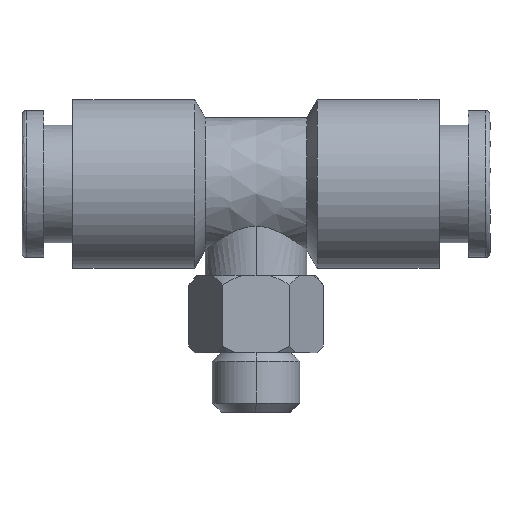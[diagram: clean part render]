
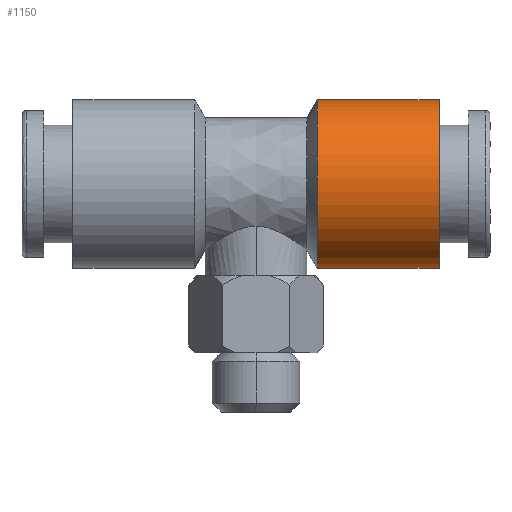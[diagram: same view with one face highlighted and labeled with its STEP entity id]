
A CAD part, top view. The second image highlights one B-rep face of the part: STEP entity #1150.
In plain terms, the highlighted free-form (B-spline) face has degree [1, 3] with [2, 4] control points.
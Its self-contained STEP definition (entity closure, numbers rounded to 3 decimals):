
#20 = EDGE_CURVE ( 'NONE', #200, #1172, #1308, .T. ) ;
#55 = CARTESIAN_POINT ( 'NONE',  ( 4.222, 17.4, 0. ) ) ;
#114 = ORIENTED_EDGE ( 'NONE', *, *, #20, .F. ) ;
#173 = CARTESIAN_POINT ( 'NONE',  ( 12.6, 5.8, 11.6 ) ) ;
#200 = VERTEX_POINT ( 'NONE', #2088 ) ;
#261 = CARTESIAN_POINT ( 'NONE',  ( 4.222, 17.4, 11.6 ) ) ;
#308 = VERTEX_POINT ( 'NONE', #514 ) ;
#356 = CARTESIAN_POINT ( 'NONE',  ( 4.222, 5.8, 11.6 ) ) ;
#393 = CARTESIAN_POINT ( 'NONE',  ( 12.6, 5.8, 0. ) ) ;
#492 = CARTESIAN_POINT ( 'NONE',  ( 4.222, 5.8, 11.6 ) ) ;
#514 = CARTESIAN_POINT ( 'NONE',  ( 12.6, 17.4, 0. ) ) ;
#547 = FACE_OUTER_BOUND ( 'NONE', #2001, .T. ) ;
#726 = EDGE_CURVE ( 'NONE', #1172, #1933, #1247, .T. ) ;
#796 = CARTESIAN_POINT ( 'NONE',  ( 4.222, 17.4, 0. ) ) ;
#817 = CARTESIAN_POINT ( 'NONE',  ( 4.222, 17.4, 0. ) ) ;
#851 = CARTESIAN_POINT ( 'NONE',  ( 4.222, 5.8, 0. ) ) ;
#858 = ORIENTED_EDGE ( 'NONE', *, *, #1462, .T. ) ;
#1052 = CARTESIAN_POINT ( 'NONE',  ( 12.6, 5.8, 0. ) ) ;
#1055 = CARTESIAN_POINT ( 'NONE',  ( 12.6, 17.4, 11.6 ) ) ;
#1149 = CARTESIAN_POINT ( 'NONE',  ( 12.6, 17.4, 0. ) ) ;
#1150 = ADVANCED_FACE ( 'NONE', ( #547 ), #2136, .T. ) ;
#1172 = VERTEX_POINT ( 'NONE', #2063 ) ;
#1247 =( BOUNDED_CURVE ( )  B_SPLINE_CURVE ( 3, ( #1489, #492, #261, #55 ),
 .UNSPECIFIED., .F., .F. ) 
 B_SPLINE_CURVE_WITH_KNOTS ( ( 4, 4 ),
 ( 0.5, 1. ),
 .UNSPECIFIED. ) 
 CURVE ( )  GEOMETRIC_REPRESENTATION_ITEM ( )  RATIONAL_B_SPLINE_CURVE ( ( 1., 0.333, 0.333, 1. ) ) 
 REPRESENTATION_ITEM ( '' )  );
#1308 = B_SPLINE_CURVE_WITH_KNOTS ( 'NONE', 1,
 ( #1052, #851 ),
 .UNSPECIFIED., .F., .F.,
 ( 2, 2 ),
 ( 0., 1. ),
 .UNSPECIFIED. ) ;
#1357 = CARTESIAN_POINT ( 'NONE',  ( 4.222, 17.4, 0. ) ) ;
#1462 = EDGE_CURVE ( 'NONE', #308, #1933, #1763, .T. ) ;
#1489 = CARTESIAN_POINT ( 'NONE',  ( 4.222, 5.8, 0. ) ) ;
#1763 = B_SPLINE_CURVE_WITH_KNOTS ( 'NONE', 1,
 ( #2000, #817 ),
 .UNSPECIFIED., .F., .F.,
 ( 2, 2 ),
 ( 0., 1. ),
 .UNSPECIFIED. ) ;
#1833 = CARTESIAN_POINT ( 'NONE',  ( 12.6, 17.4, 0. ) ) ;
#1843 =( BOUNDED_CURVE ( )  B_SPLINE_CURVE ( 3, ( #393, #173, #1055, #1833 ),
 .UNSPECIFIED., .F., .F. ) 
 B_SPLINE_CURVE_WITH_KNOTS ( ( 4, 4 ),
 ( 0.5, 1. ),
 .UNSPECIFIED. ) 
 CURVE ( )  GEOMETRIC_REPRESENTATION_ITEM ( )  RATIONAL_B_SPLINE_CURVE ( ( 1., 0.333, 0.333, 1. ) ) 
 REPRESENTATION_ITEM ( '' )  );
#1933 = VERTEX_POINT ( 'NONE', #796 ) ;
#1959 = CARTESIAN_POINT ( 'NONE',  ( 12.6, 17.4, 11.6 ) ) ;
#1971 = CARTESIAN_POINT ( 'NONE',  ( 4.222, 5.8, 0. ) ) ;
#2000 = CARTESIAN_POINT ( 'NONE',  ( 12.6, 17.4, 0. ) ) ;
#2001 = EDGE_LOOP ( 'NONE', ( #114, #2313, #858, #2114 ) ) ;
#2063 = CARTESIAN_POINT ( 'NONE',  ( 4.222, 5.8, 0. ) ) ;
#2088 = CARTESIAN_POINT ( 'NONE',  ( 12.6, 5.8, 0. ) ) ;
#2114 = ORIENTED_EDGE ( 'NONE', *, *, #726, .F. ) ;
#2136 =( BOUNDED_SURFACE ( )  B_SPLINE_SURFACE ( 1, 3, ( 
 ( #1149, #1959, #2555, #2360 ),
 ( #1357, #2164, #356, #1971 ) ),
 .UNSPECIFIED., .F., .F., .F. ) 
 B_SPLINE_SURFACE_WITH_KNOTS ( ( 2, 2 ),
 ( 4, 4 ),
 ( 0., 1. ),
 ( 0., 1. ),
 .UNSPECIFIED. ) 
 GEOMETRIC_REPRESENTATION_ITEM ( )  RATIONAL_B_SPLINE_SURFACE ( (
 ( 1., 0.333, 0.333, 1.),
 ( 1., 0.333, 0.333, 1.) ) ) 
 REPRESENTATION_ITEM ( '' )  SURFACE ( )  );
#2164 = CARTESIAN_POINT ( 'NONE',  ( 4.222, 17.4, 11.6 ) ) ;
#2313 = ORIENTED_EDGE ( 'NONE', *, *, #2493, .T. ) ;
#2360 = CARTESIAN_POINT ( 'NONE',  ( 12.6, 5.8, 0. ) ) ;
#2493 = EDGE_CURVE ( 'NONE', #200, #308, #1843, .T. ) ;
#2555 = CARTESIAN_POINT ( 'NONE',  ( 12.6, 5.8, 11.6 ) ) ;
